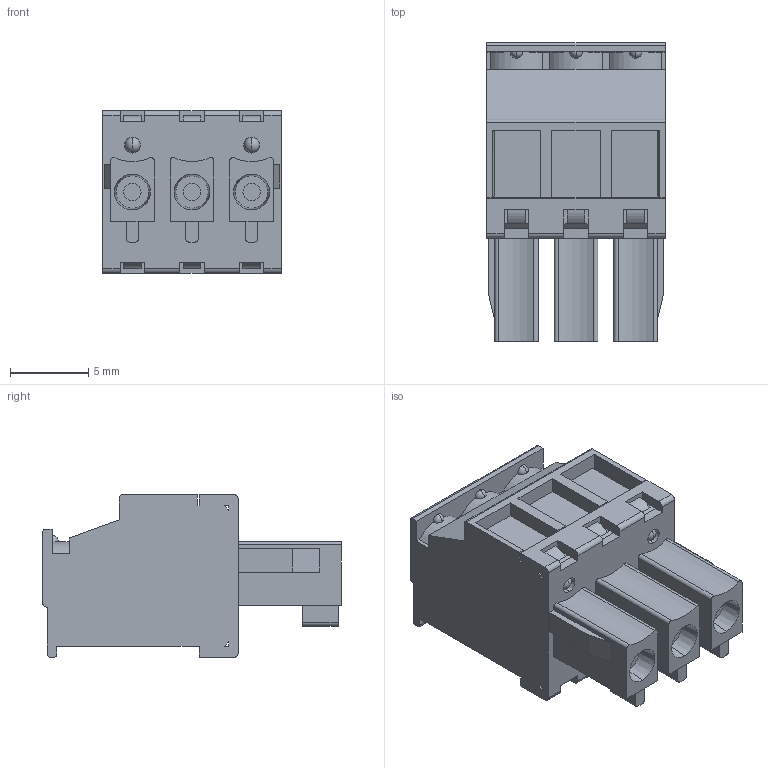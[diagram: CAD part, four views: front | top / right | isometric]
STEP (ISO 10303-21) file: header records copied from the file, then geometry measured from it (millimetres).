
FILE_DESCRIPTION((''),'2;1');
FILE_NAME('33','2019-04-10T',('zhenbing.lai'),(''),'CREO PARAMETRIC BY PTC INC, 2016260','CREO PARAMETRIC BY PTC INC, 2016260','');
FILE_SCHEMA(('CONFIG_CONTROL_DESIGN'));
Length unit declared in the file: millimetre
Products named in the file (1): 33
Bounding box: 11.43 x 19.1 x 10.4 mm (x, y, z)
Volume: 1403.6 mm3; surface area: 1332.7 mm2
Topology: 1 solids, 3 shells, 355 faces, 1043 edges, 691 vertices
Faces by surface type: plane 216, cylinder 99, torus 18, sphere 10, cone 6, bspline 6
Entity records: 14084 total; most frequent: CARTESIAN_POINT 4623, ORIENTED_EDGE 2066, DIRECTION 1867, EDGE_CURVE 1033, VERTEX_POINT 691, AXIS2_PLACEMENT_3D 648, VECTOR 571, LINE 571
